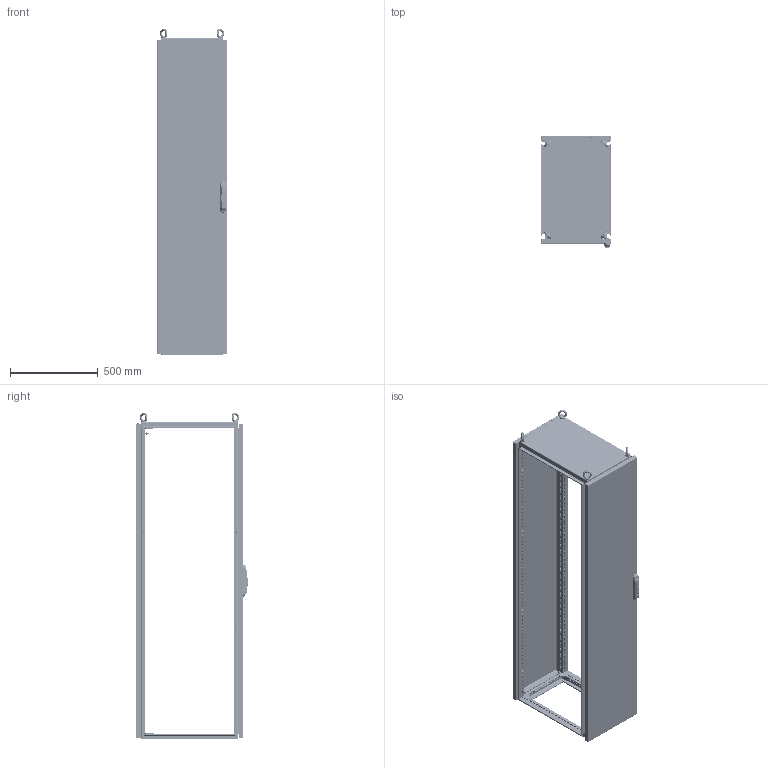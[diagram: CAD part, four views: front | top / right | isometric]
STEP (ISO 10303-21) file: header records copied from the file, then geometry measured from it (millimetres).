
FILE_DESCRIPTION(/* description */ (''),/* implementation_level */ '2;1');
FILE_NAME(/* name */ 'MCA04018060',/* time_stamp */ '2025-09-15T10:35:47+02:00',/* author */ ('INOXVENETA Spa'),/* organization */ ('www.inoxveneta.it '),/* preprocessor_version */ 'ST-DEVELOPER v19.4',/* originating_system */ 'Solid Edge',/* authorisation */ 'Unknown');
FILE_SCHEMA (('AUTOMOTIVE_DESIGN {1 0 10303 214 3 1 1}'));
Products named in the file (56): MCA04018060; F0000001.24; AE00198.03; M000X002.16; M0000000.29; AE00500.10; M000X002.17; M0000001.25; M0000000.39; M0000000.06; AE00219.03; AE00715.01; M000X001.88; M0000001.44; F0000000.18; F000X004.67; F000X004.68; F0000002.97; F0000000.07; AE00100.03_oa_0; AE00100.03_oa_1; AE00100.03_oa_2; AE00100.03_oa_3; F000X000.14; M0000000.37; AE00701.03; F0000000.13; F000X004.70; F000X004.69; F0000002.98; F0000000.12; AE00222.15; AE00316.01; AE00992.10_oa_4; AE00992.31; AE00315.01; R1000002.13; AE00992.18; AE00992.16; AE00636.02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
Assembly tree (212 placements, depth 4):
  MCA04018060
    F0000001.24  x4
    AE00198.03  x16
    M000X002.16
      M0000000.29  x4
      AE00500.10  x48
      M000X002.17  x2
        M0000001.25
        M0000000.39
        M0000000.06
    AE00219.03  x8
    AE00715.01  x4
    M000X001.88
      M0000001.44
    F0000000.18
    F000X004.67
      F000X004.68
        F0000002.97
      F0000000.07  x2
      AE00100.03_oa_0
      AE00100.03_oa_1
      AE00100.03_oa_2
      AE00100.03_oa_3
    F000X000.14
    M0000000.37  x8
    AE00701.03  x4
    F0000000.13  x4
    F000X004.70
      F000X004.69
        F0000002.98
      F0000000.12  x8
      AE00222.15  x8
      AE00316.01  x8
      AE00992.10_oa_4
      AE00992.31
      AE00315.01  x4
      R1000002.13  x2
      AE00992.18  x4
      AE00992.16
      AE00636.02  x8
      AE00409.01  x4
      AE00417.01  x2
    F0000000.08  x4
    M000X000.49_oa_5
      M0000000.56
      M0000000.57
      M000X000.50_oa_6
        M0000000.58
        AE00217.25
        AE00309.01
      AE00368.00  x8
      AE00224.00  x2
      AE00219.00  x8
      M000X000.51_oa_7
        M0000000.59
        AE00217.25
        AE00309.01
    C0000000.08
Bounding box: 400 x 638.2 x 1856.94 mm (x, y, z)
Volume: 7232113 mm3; surface area: 9263157.6 mm2
Topology: 221 solids, 221 shells, 12082 faces, 32764 edges, 21183 vertices
Faces by surface type: plane 7739, cylinder 2903, cone 626, torus 446, bspline 218, sphere 150
Full cylindrical faces by diameter (mm): 1.231 x4, 2 x4, 3 x1, 3.242 x2, 4 x12, 4.134 x5, 4.25 x4, 4.5 x800, 4.917 x73, 4.918 x8, 5 x6, 6 x66, 6.1 x20, 6.2 x8, 6.5 x28, 6.647 x6, 7.5 x2, 8 x4, 8.3 x8, 8.5 x2, 9 x48, 10 x2, 10.106 x8, 10.5 x20, 11.8 x8, 12 x20, 13 x4, 14 x1, 16 x1, 17 x3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
Entity records: 108761 total; most frequent: CARTESIAN_POINT 25053, DIRECTION 16002, ORIENTED_EDGE 15852, EDGE_CURVE 7926, LINE 5720, VECTOR 5720, VERTEX_POINT 5321, AXIS2_PLACEMENT_3D 5141
